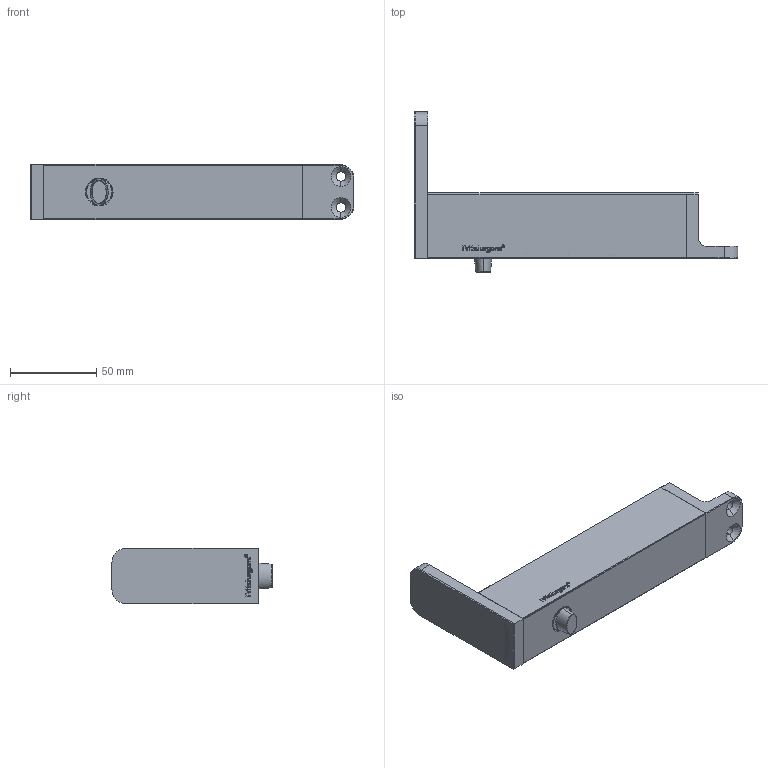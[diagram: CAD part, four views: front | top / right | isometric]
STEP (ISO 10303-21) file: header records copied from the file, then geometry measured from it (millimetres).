
FILE_DESCRIPTION (( 'STEP AP214' ), '1' );
FILE_NAME ('000924-System Fx-40_dummy.STEP', '2024-08-06T13:36:27', ( '' ), ( '' ), 'SwSTEP 2.0', 'SolidWorks 2023', '' );
FILE_SCHEMA (( 'AUTOMOTIVE_DESIGN' ));
Length unit declared in the file: millimetre
Products named in the file (1): 000924-System Fx-40_dummy
Bounding box: 188.1 x 93 x 32 mm (x, y, z)
Surface area: 36123.6 mm2 (no closed solid volume)
Topology: 0 solids, 44 shells, 157 faces, 1114 edges, 1002 vertices
Faces by surface type: plane 87, cylinder 37, bspline 19, cone 10, torus 4
Entity records: 14182 total; most frequent: CARTESIAN_POINT 6262, DIRECTION 1517, ORIENTED_EDGE 1372, EDGE_CURVE 1114, VERTEX_POINT 1002, AXIS2_PLACEMENT_3D 527, LINE 463, VECTOR 463
